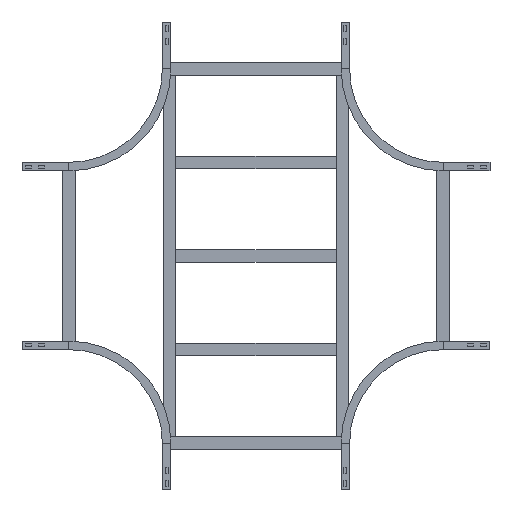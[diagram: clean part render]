
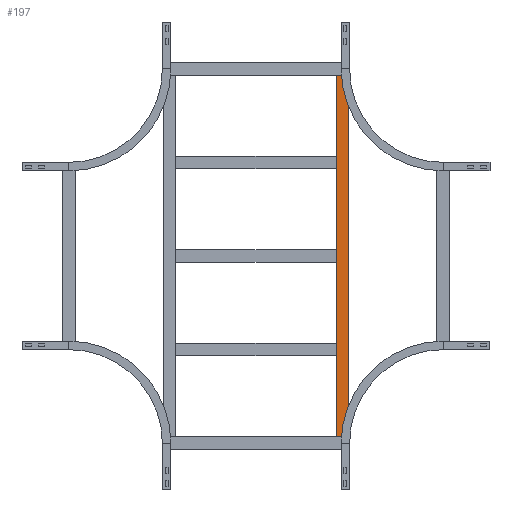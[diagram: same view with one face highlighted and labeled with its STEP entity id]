
A CAD part, front view. The second image highlights one B-rep face of the part: STEP entity #197.
In plain terms, the highlighted planar face has unit normal (0, -1, 0).
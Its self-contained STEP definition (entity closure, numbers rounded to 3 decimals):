
#88 = DIRECTION ( 'NONE',  ( 0., 0., -1. ) ) ;
#116 = CARTESIAN_POINT ( 'NONE',  ( 579.75, 0., 20.25 ) ) ;
#197 = ADVANCED_FACE ( 'NONE', ( #2385 ), #1981, .F. ) ;
#334 = CARTESIAN_POINT ( 'NONE',  ( 579.75, 0., -20.25 ) ) ;
#457 = VECTOR ( 'NONE', #88, 1000. ) ;
#479 = CARTESIAN_POINT ( 'NONE',  ( 579.75, 0., 20.25 ) ) ;
#523 = CARTESIAN_POINT ( 'NONE',  ( -579.75, 0., 20.25 ) ) ;
#623 = CARTESIAN_POINT ( 'NONE',  ( 579.75, 0., -20.25 ) ) ;
#680 = EDGE_LOOP ( 'NONE', ( #1209, #1966, #2380, #918 ) ) ;
#703 = VERTEX_POINT ( 'NONE', #623 ) ;
#711 = DIRECTION ( 'NONE',  ( 0., 0., -1. ) ) ;
#784 = EDGE_CURVE ( 'NONE', #1431, #2413, #924, .T. ) ;
#825 = CARTESIAN_POINT ( 'NONE',  ( -579.75, 0., 20.25 ) ) ;
#888 = DIRECTION ( 'NONE',  ( -1., 0., 0. ) ) ;
#918 = ORIENTED_EDGE ( 'NONE', *, *, #1735, .T. ) ;
#924 = LINE ( 'NONE', #523, #1178 ) ;
#1029 = DIRECTION ( 'NONE',  ( 0., 1., 0. ) ) ;
#1051 = VECTOR ( 'NONE', #1858, 1000. ) ;
#1066 = EDGE_CURVE ( 'NONE', #2344, #703, #1785, .T. ) ;
#1076 = LINE ( 'NONE', #116, #2006 ) ;
#1178 = VECTOR ( 'NONE', #711, 1000. ) ;
#1209 = ORIENTED_EDGE ( 'NONE', *, *, #784, .T. ) ;
#1240 = DIRECTION ( 'NONE',  ( 0., 0., 1. ) ) ;
#1350 = CARTESIAN_POINT ( 'NONE',  ( -579.75, 0., -20.25 ) ) ;
#1431 = VERTEX_POINT ( 'NONE', #825 ) ;
#1606 = CARTESIAN_POINT ( 'NONE',  ( 579.75, 0., 20.25 ) ) ;
#1735 = EDGE_CURVE ( 'NONE', #2344, #1431, #1076, .T. ) ;
#1785 = LINE ( 'NONE', #1606, #457 ) ;
#1858 = DIRECTION ( 'NONE',  ( -1., 0., 0. ) ) ;
#1861 = EDGE_CURVE ( 'NONE', #703, #2413, #2285, .T. ) ;
#1966 = ORIENTED_EDGE ( 'NONE', *, *, #1861, .F. ) ;
#1981 = PLANE ( 'NONE',  #2418 ) ;
#2006 = VECTOR ( 'NONE', #888, 1000. ) ;
#2055 = CARTESIAN_POINT ( 'NONE',  ( 579.75, 0., 20.25 ) ) ;
#2285 = LINE ( 'NONE', #334, #1051 ) ;
#2344 = VERTEX_POINT ( 'NONE', #2055 ) ;
#2380 = ORIENTED_EDGE ( 'NONE', *, *, #1066, .F. ) ;
#2385 = FACE_OUTER_BOUND ( 'NONE', #680, .T. ) ;
#2413 = VERTEX_POINT ( 'NONE', #1350 ) ;
#2418 = AXIS2_PLACEMENT_3D ( 'NONE', #479, #1029, #1240 ) ;
